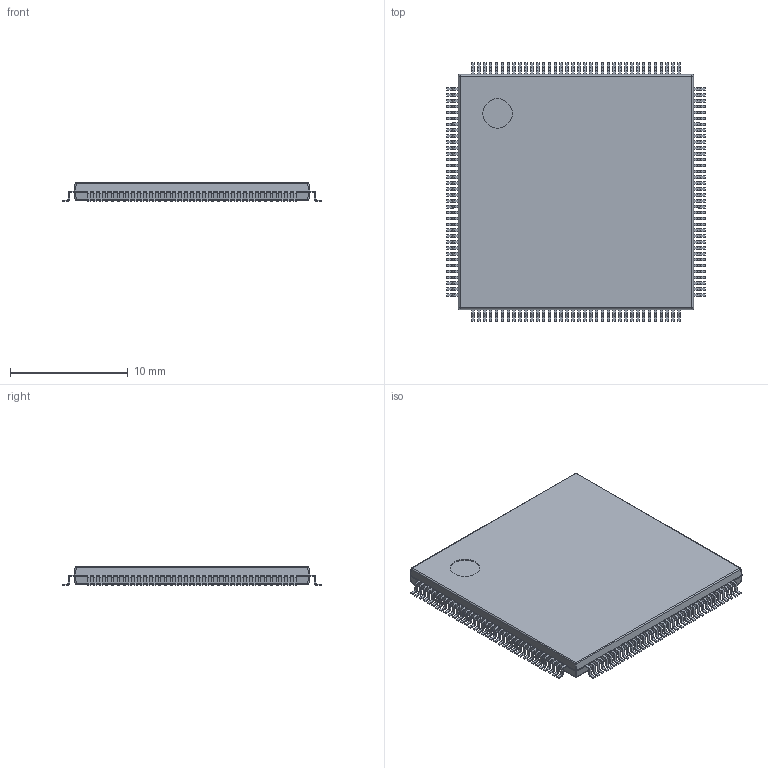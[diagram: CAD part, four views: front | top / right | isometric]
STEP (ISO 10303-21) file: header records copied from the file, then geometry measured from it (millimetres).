
FILE_DESCRIPTION(('Open CASCADE Model'),'2;1');
FILE_NAME('Open CASCADE Shape Model','2022-11-10T10:58:09',('Author'),( 'Open CASCADE'),'Open CASCADE STEP processor 6.8','Open CASCADE 6.8' ,'Unknown');
FILE_SCHEMA(('AUTOMOTIVE_DESIGN { 1 0 10303 214 1 1 1 1 }'));
Length unit declared in the file: millimetre
Products named in the file (6): TSQFP50P2200X2200X160-144N.step; Open CASCADE STEP translator 6.8 33.1; Body; Open CASCADE STEP translator 6.8 33.2.1; Leader
Assembly tree (147 placements, depth 3):
  TSQFP50P2200X2200X160-144N.step
    Open CASCADE STEP translator 6.8 33.1
    Body
      Open CASCADE STEP translator 6.8 33.2.1
    Leader  x72
    Leader  x72
Bounding box: 22 x 22 x 1.6 mm (x, y, z)
Volume: 620 mm3; surface area: 1070.2 mm2
Topology: 145 solids, 146 shells, 3229 faces, 6460 edges, 3515 vertices
Faces by surface type: plane 2608, cylinder 605, sphere 8, bspline 8
Full cylindrical faces by diameter (mm): 2.5 x1
Entity records: 4483 total; most frequent: CARTESIAN_POINT 1316, DIRECTION 705, ORIENTED_EDGE 407, AXIS2_PLACEMENT_3D 288, EDGE_CURVE 204, PRODUCT_DEFINITION_SHAPE 153, CONTEXT_DEPENDENT_SHAPE_REPRESENTATION 147, ITEM_DEFINED_TRANSFORMATION 147
